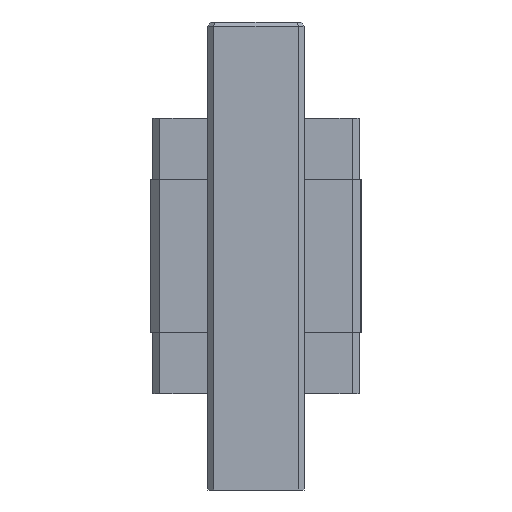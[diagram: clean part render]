
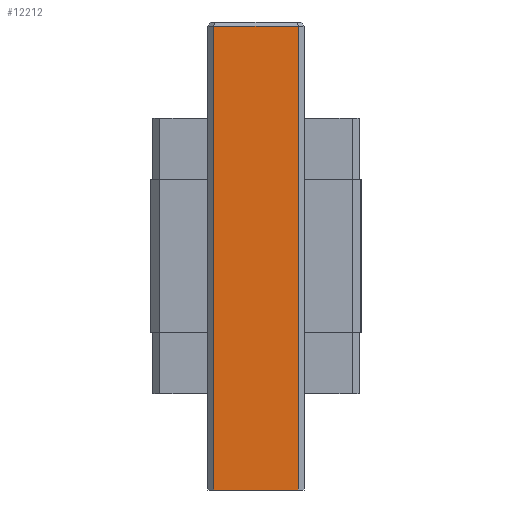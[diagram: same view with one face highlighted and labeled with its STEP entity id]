
A CAD part, front view. The second image highlights one B-rep face of the part: STEP entity #12212.
In plain terms, the highlighted planar face has unit normal (0, -1, 0).
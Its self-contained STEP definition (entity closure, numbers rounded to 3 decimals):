
#11173=DIRECTION('',(1.,0.,0.));
#11174=VECTOR('',#11173,17.6);
#11175=CARTESIAN_POINT('',(-8.8,-12.4,-48.65));
#11176=LINE('',#11175,#11174);
#11446=DIRECTION('',(1.,0.,0.));
#11447=VECTOR('',#11446,17.6);
#11448=CARTESIAN_POINT('',(-8.8,-12.4,47.784));
#11449=LINE('',#11448,#11447);
#11450=DIRECTION('',(0.,0.,1.));
#11451=VECTOR('',#11450,96.434);
#11452=CARTESIAN_POINT('',(-8.8,-12.4,-48.65));
#11453=LINE('',#11452,#11451);
#11458=DIRECTION('',(0.,0.,1.));
#11459=VECTOR('',#11458,96.434);
#11460=CARTESIAN_POINT('',(8.8,-12.4,-48.65));
#11461=LINE('',#11460,#11459);
#11644=CARTESIAN_POINT('',(-8.8,-12.4,-48.65));
#11645=VERTEX_POINT('',#11644);
#11646=CARTESIAN_POINT('',(8.8,-12.4,-48.65));
#11647=VERTEX_POINT('',#11646);
#11708=CARTESIAN_POINT('',(8.8,-12.4,47.784));
#11709=VERTEX_POINT('',#11708);
#11712=CARTESIAN_POINT('',(-8.8,-12.4,47.784));
#11713=VERTEX_POINT('',#11712);
#12200=CARTESIAN_POINT('',(-8.8,-12.4,-48.65));
#12201=DIRECTION('',(0.,-1.,0.));
#12202=DIRECTION('',(1.,0.,0.));
#12203=AXIS2_PLACEMENT_3D('',#12200,#12201,#12202);
#12204=PLANE('',#12203);
#12205=ORIENTED_EDGE('',*,*,#12191,.T.);
#12207=ORIENTED_EDGE('',*,*,#12206,.F.);
#12208=ORIENTED_EDGE('',*,*,#11793,.F.);
#12209=ORIENTED_EDGE('',*,*,#12166,.T.);
#12210=EDGE_LOOP('',(#12205,#12207,#12208,#12209));
#12211=FACE_OUTER_BOUND('',#12210,.F.);
#11793=EDGE_CURVE('',#11645,#11647,#11176,.T.);
#12166=EDGE_CURVE('',#11645,#11713,#11453,.T.);
#12191=EDGE_CURVE('',#11713,#11709,#11449,.T.);
#12206=EDGE_CURVE('',#11647,#11709,#11461,.T.);
#12212=ADVANCED_FACE('',(#12211),#12204,.T.);
